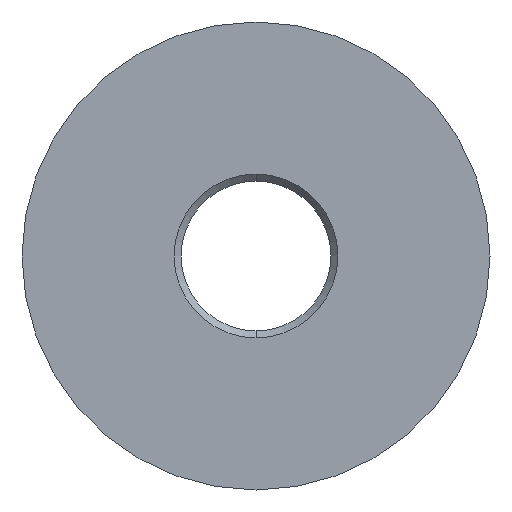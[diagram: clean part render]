
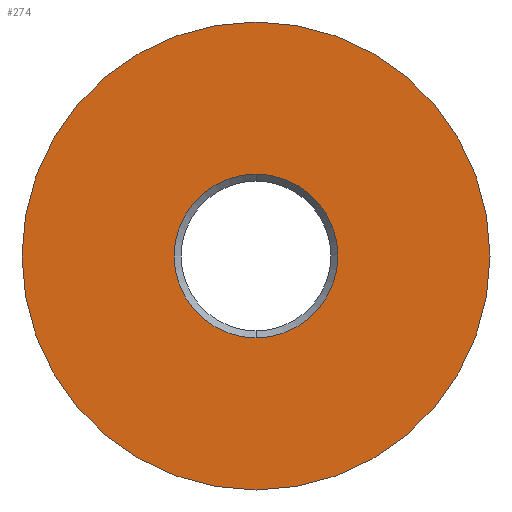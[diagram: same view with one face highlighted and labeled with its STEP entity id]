
A CAD part, front view. The second image highlights one B-rep face of the part: STEP entity #274.
In plain terms, the highlighted planar face has unit normal (0, -1, 0).
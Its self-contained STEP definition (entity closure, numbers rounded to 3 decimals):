
#1 = DIRECTION ( 'NONE',  ( 0., 0., -1. ) ) ;
#3 = DIRECTION ( 'NONE',  ( 0., -1., 0. ) ) ;
#5 = CARTESIAN_POINT ( 'NONE',  ( 0., -3., 0. ) ) ;
#8 = VERTEX_POINT ( 'NONE', #176 ) ;
#27 = ORIENTED_EDGE ( 'NONE', *, *, #224, .T. ) ;
#32 = EDGE_LOOP ( 'NONE', ( #27, #262 ) ) ;
#38 = AXIS2_PLACEMENT_3D ( 'NONE', #260, #129, #366 ) ;
#44 = DIRECTION ( 'NONE',  ( 0., 1., 0. ) ) ;
#62 = ORIENTED_EDGE ( 'NONE', *, *, #229, .F. ) ;
#65 = CARTESIAN_POINT ( 'NONE',  ( -1.75, -3., 0. ) ) ;
#77 = DIRECTION ( 'NONE',  ( 0., -1., 0. ) ) ;
#90 = CARTESIAN_POINT ( 'NONE',  ( 0., -3., 5. ) ) ;
#109 = VERTEX_POINT ( 'NONE', #152 ) ;
#129 = DIRECTION ( 'NONE',  ( 0., -1., 0. ) ) ;
#130 = CARTESIAN_POINT ( 'NONE',  ( 0., -3., 0. ) ) ;
#140 = EDGE_CURVE ( 'NONE', #8, #109, #332, .T. ) ;
#152 = CARTESIAN_POINT ( 'NONE',  ( 0., -3., -1.75 ) ) ;
#161 = DIRECTION ( 'NONE',  ( 0., 0., -1. ) ) ;
#162 = CARTESIAN_POINT ( 'NONE',  ( 0., -3., 0. ) ) ;
#168 = CIRCLE ( 'NONE', #204, 5. ) ;
#173 = DIRECTION ( 'NONE',  ( 0., -1., 0. ) ) ;
#175 = EDGE_LOOP ( 'NONE', ( #62, #279 ) ) ;
#176 = CARTESIAN_POINT ( 'NONE',  ( 0., -3., 1.75 ) ) ;
#179 = DIRECTION ( 'NONE',  ( 0., 0., -1. ) ) ;
#194 = AXIS2_PLACEMENT_3D ( 'NONE', #65, #44, #374 ) ;
#204 = AXIS2_PLACEMENT_3D ( 'NONE', #162, #77, #161 ) ;
#210 = EDGE_CURVE ( 'NONE', #292, #259, #222, .T. ) ;
#221 = CIRCLE ( 'NONE', #246, 1.75 ) ;
#222 = CIRCLE ( 'NONE', #38, 5. ) ;
#224 = EDGE_CURVE ( 'NONE', #259, #292, #168, .T. ) ;
#229 = EDGE_CURVE ( 'NONE', #109, #8, #221, .T. ) ;
#246 = AXIS2_PLACEMENT_3D ( 'NONE', #130, #173, #179 ) ;
#259 = VERTEX_POINT ( 'NONE', #363 ) ;
#260 = CARTESIAN_POINT ( 'NONE',  ( 0., -3., 0. ) ) ;
#261 = FACE_BOUND ( 'NONE', #175, .T. ) ;
#262 = ORIENTED_EDGE ( 'NONE', *, *, #210, .T. ) ;
#274 = ADVANCED_FACE ( 'NONE', ( #261, #284 ), #281, .F. ) ;
#279 = ORIENTED_EDGE ( 'NONE', *, *, #140, .F. ) ;
#280 = AXIS2_PLACEMENT_3D ( 'NONE', #5, #3, #1 ) ;
#281 = PLANE ( 'NONE',  #194 ) ;
#284 = FACE_OUTER_BOUND ( 'NONE', #32, .T. ) ;
#292 = VERTEX_POINT ( 'NONE', #90 ) ;
#332 = CIRCLE ( 'NONE', #280, 1.75 ) ;
#363 = CARTESIAN_POINT ( 'NONE',  ( 0., -3., -5. ) ) ;
#366 = DIRECTION ( 'NONE',  ( 0., 0., -1. ) ) ;
#374 = DIRECTION ( 'NONE',  ( 0., 0., 1. ) ) ;
